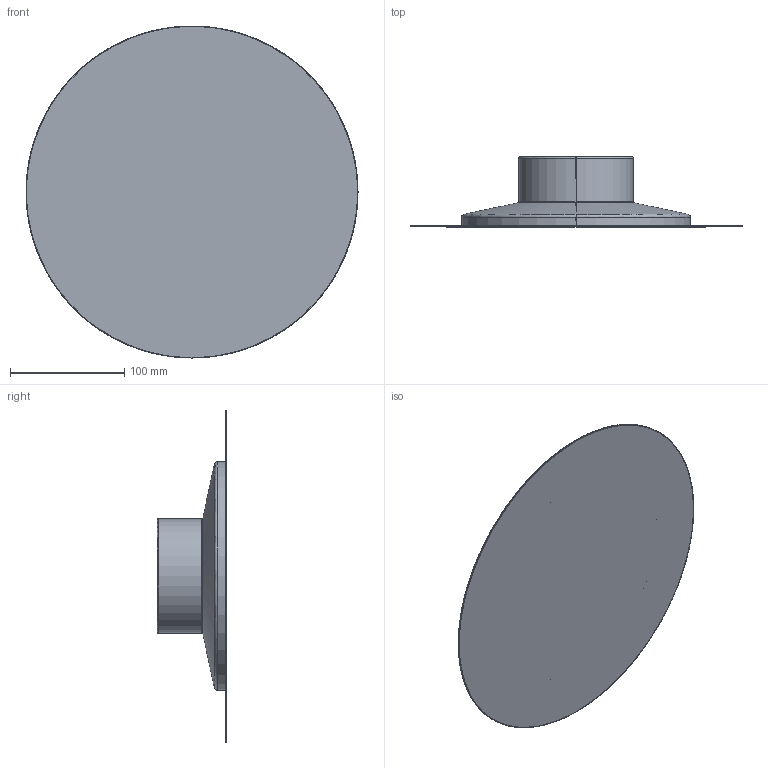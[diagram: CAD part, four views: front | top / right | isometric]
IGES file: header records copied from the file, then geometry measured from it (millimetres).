
Start section: SolidWorks IGES file using analytic representation for surfaces
Global section: file name: C:\Users\Maripaz\Desktop\A1272\A1272.IGS; native system: SolidWorks 2017; preprocessor: SolidWorks 2017; author: Maripaz; date: 190325.173715; units: millimetre
Bounding box: 290 x 61 x 290 mm (x, y, z)
Surface area: 301468 mm2 (no closed solid volume)
Topology: 0 solids, 0 shells, 28 faces, 592 edges, 592 vertices
Faces by surface type: bspline 18, revolution 10
